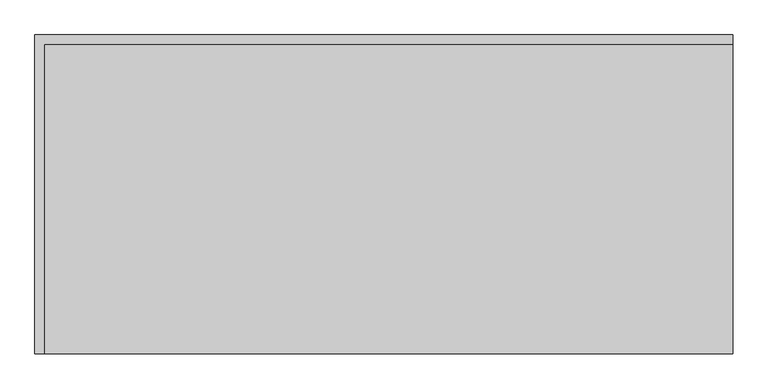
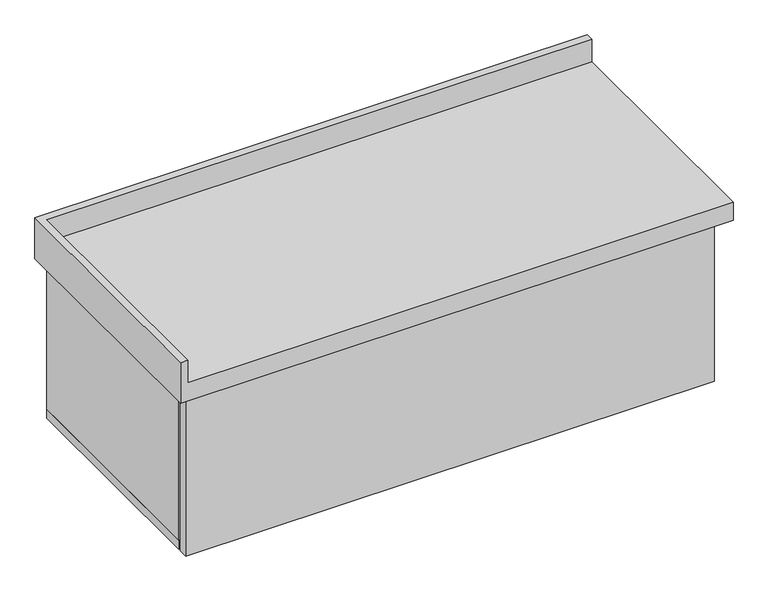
"""IFC4 building model written with IfcOpenShell, lengths in millimetres: furniture geometry, Mueble colgado 1 cajon - lavabo sobreponer : MB2 mueble baño colgado-1 cajon - 90cm 2."""

from ifc_helpers import new_model, si_unit, frame, origin, place, context, project, spatial, polyline, outline, extrude, faceted_brep, source, transform, mapped, element, save


def furniture_2a8264aa(model_context):
    return source(origin(), model_context, "Body", "SolidModel", [
        faceted_brep([(-450.0, -615.0, 800.0), (-450.0, -615.0, 710.0), (700.0, -615.0, 710.0), (700.0, -615.0, 750.0), (-435.0, -615.0, 750.0), (-435.0, -615.0, 800.0), (-435.0, -105.0, 800.0), (700.0, -105.0, 800.0), (700.0, -90.0, 800.0), (-450.0, -90.0, 800.0), (-435.0, -105.0, 750.0), (-450.0, -90.0, 710.0), (700.0, -105.0, 750.0), (700.0, -90.0, 710.0)], [[[0, 1, 2, 3, 4, 5]], [[5, 6, 7, 8, 9, 0]], [[4, 10, 6, 5]], [[0, 9, 11, 1]], [[6, 10, 12, 7]], [[8, 13, 11, 9]], [[7, 12, 3, 2, 13, 8]], [[3, 12, 10, 4]], [[2, 1, 11, 13]]]),
        extrude(outline(polyline([(675.0, -590.0), (-425.0, -590.0), (-425.0, -570.0), (675.0, -570.0), (675.0, -590.0)])), frame((0.0, 0.0, 350.0), z_axis=(0.0, 0.0, 1.0), x_axis=(1.0, 0.0, 0.0)), (0.0, 0.0, 1.0), 350.0),
        extrude(outline(polyline([(675.0, -90.0), (675.0, -565.0), (655.0, -565.0), (655.0, -90.0), (675.0, -90.0)])), frame((0.0, 0.0, 370.0), z_axis=(0.0, 0.0, 1.0), x_axis=(1.0, 0.0, 0.0)), (0.0, 0.0, 1.0), 340.0),
        extrude(outline(polyline([(-405.0, -90.0), (-405.0, -565.0), (-425.0, -565.0), (-425.0, -90.0), (-405.0, -90.0)])), frame((0.0, 0.0, 370.0), z_axis=(0.0, 0.0, 1.0), x_axis=(1.0, 0.0, 0.0)), (0.0, 0.0, 1.0), 340.0),
        extrude(outline(polyline([(675.0, -565.0), (-425.0, -565.0), (-425.0, -90.0), (675.0, -90.0), (675.0, -565.0)])), frame((0.0, 0.0, 350.0), z_axis=(0.0, 0.0, 1.0), x_axis=(1.0, 0.0, 0.0)), (0.0, 0.0, 1.0), 20.0),
    ])


if __name__ == "__main__":
    model = new_model("IFC4")
    model_context = context("Model", 3, world=origin())
    ifc_project = project(units=[si_unit("LENGTHUNIT", "METRE", prefix="MILLI")], contexts=[model_context])
    site = spatial("IfcSite", under=ifc_project)
    building = spatial("IfcBuilding", under=site)
    placement = place(None, origin())
    furniture_shape = furniture_2a8264aa(model_context)
    element("IfcFurniture", 1, ObjectType="Mueble colgado 1 cajon - lavabo sobreponer : MB2 mueble baño colgado-1 cajon - 90cm 2", at=placement, inside=building, context=model_context, shape_type="MappedRepresentation", body=[
        mapped(furniture_shape, transform((0.0, 0.0, 0.0), x_axis=(1.0, 0.0, 0.0), y_axis=(0.0, 1.0, 0.0), z_axis=(0.0, 0.0, 1.0))),
    ])
    save(model, "model.ifc")
